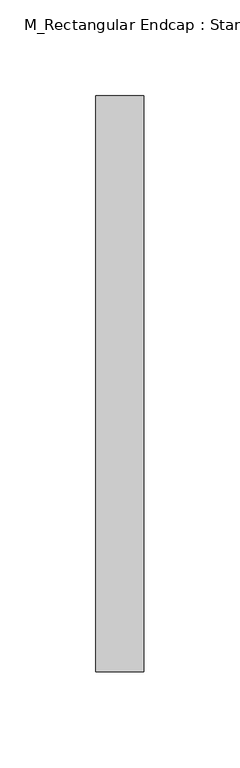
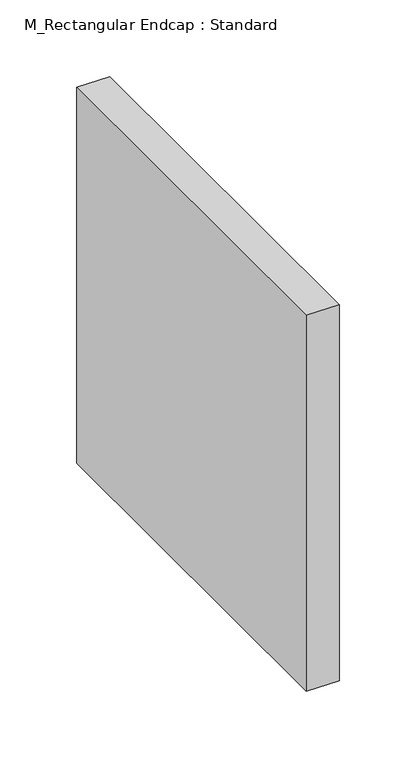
"""IFC4 building model written with IfcOpenShell, lengths in millimetres: duct fitting geometry, M_Rectangular Endcap : Standard."""

from ifc_helpers import new_model, si_unit, frame, origin, place, context, project, spatial, polyline, outline, extrude, source, transform, mapped, element, save


def m_rectangular_endcap_standard_c319d4e7(model_context):
    return source(origin(), model_context, "Body", "SweptSolid", [
        extrude(outline(polyline([(0.0, -150.0), (0.0, 150.0), (25.0, 150.0), (25.0, -150.0), (0.0, -150.0)])), frame((0.0, 0.0, -150.0), z_axis=(0.0, 0.0, 1.0), x_axis=(1.0, 0.0, 0.0)), (0.0, 0.0, 1.0), 300.0),
    ])


if __name__ == "__main__":
    model = new_model("IFC4")
    model_context = context("Model", 3, world=origin())
    ifc_project = project(units=[si_unit("LENGTHUNIT", "METRE", prefix="MILLI")], contexts=[model_context])
    site = spatial("IfcSite", under=ifc_project)
    building = spatial("IfcBuilding", under=site)
    placement = place(None, origin())
    m_rectangular_endcap_standard_shape = m_rectangular_endcap_standard_c319d4e7(model_context)
    element("IfcDuctFitting", 1, ObjectType="M_Rectangular Endcap : Standard", at=placement, inside=building, context=model_context, shape_type="MappedRepresentation", body=[
        mapped(m_rectangular_endcap_standard_shape, transform((0.0, 0.0, 0.0), x_axis=(1.0, 0.0, 0.0), y_axis=(0.0, 1.0, 0.0), z_axis=(0.0, 0.0, 1.0))),
    ])
    save(model, "model.ifc")
